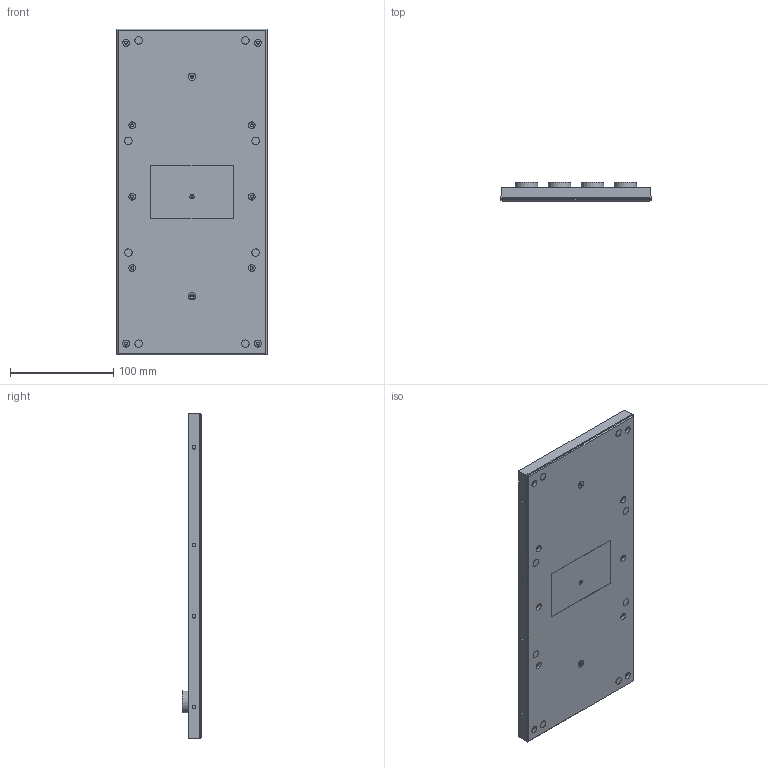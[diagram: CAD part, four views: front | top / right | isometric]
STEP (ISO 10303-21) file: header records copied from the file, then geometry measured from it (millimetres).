
FILE_DESCRIPTION(/* description */ (''),/* implementation_level */ '2;1');
FILE_NAME(/* name */ 'EXQUIS (STEP203).stp',/* time_stamp */ '2024-07-11T12:06:21+02:00',/* author */ ('DUALO'),/* organization */ ('Intuitive Instruments'),/* preprocessor_version */ 'ST-DEVELOPER v19.2',/* originating_system */ 'Autodesk Inventor 2023',/* authorisation */ '');
FILE_SCHEMA (('CONFIG_CONTROL_DESIGN'));
Products named in the file (1): EXQUIS (skin)
Bounding box: 145.75 x 18.5 x 316.42 mm (x, y, z)
Volume: 482091.9 mm3; surface area: 219011.5 mm2
Topology: 1 solids, 2 shells, 2082 faces, 4973 edges, 3004 vertices
Faces by surface type: plane 673, cylinder 511, cone 466, torus 399, bspline 28, sphere 5
Full cylindrical faces by diameter (mm): 1.5 x10, 3.5 x8, 6.25 x5, 7.25 x2, 7.913 x4, 18.07 x6
Entity records: 62797 total; most frequent: DIRECTION 11395, CARTESIAN_POINT 10763, ORIENTED_EDGE 9926, EDGE_CURVE 4963, AXIS2_PLACEMENT_3D 4417, VERTEX_POINT 3004, LINE 2561, VECTOR 2561
